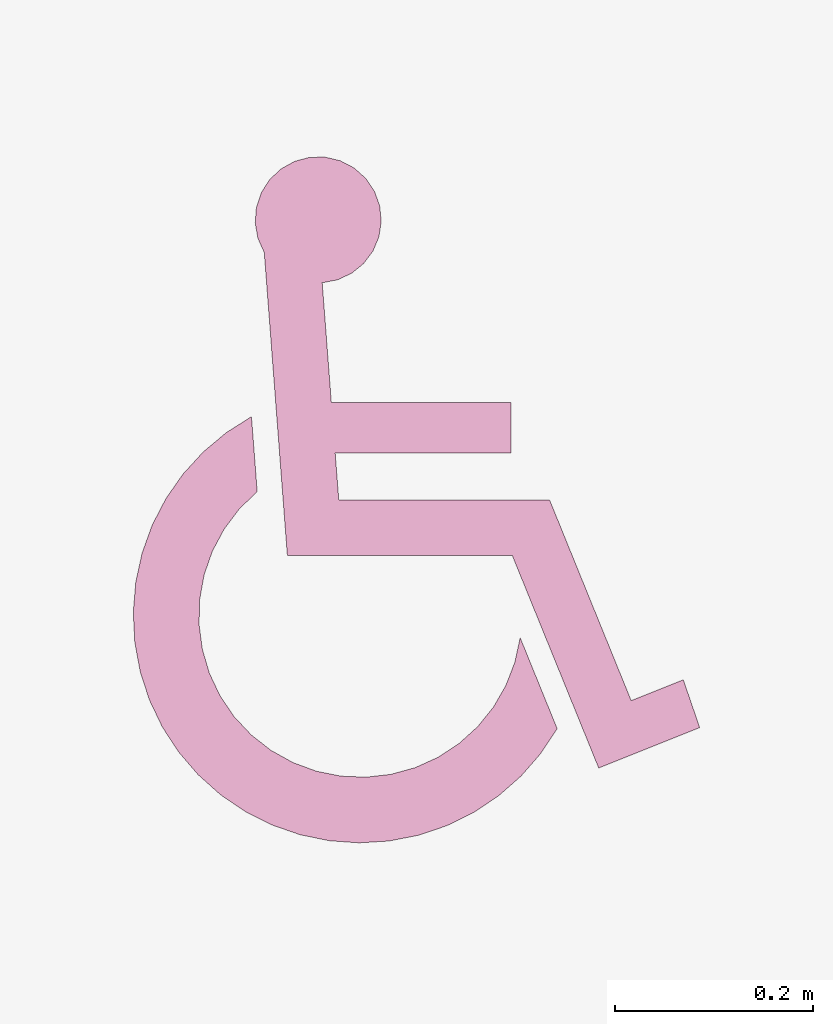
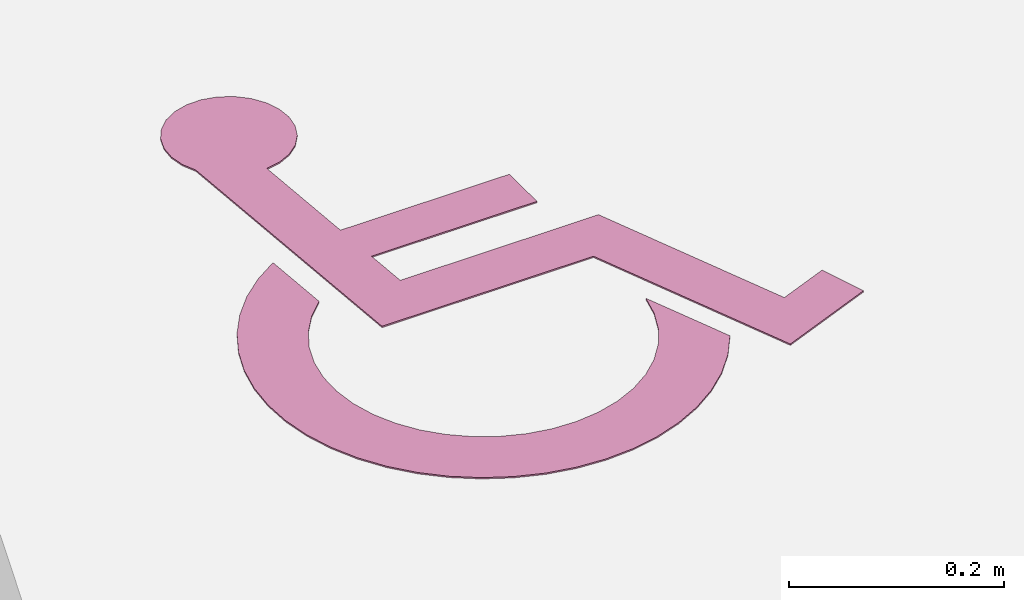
# One storey, part 97 of 100: 1 furnishing.
"""IFC2X3 building model written with IfcOpenShell, lengths in millimetres."""

from ifc_helpers import new_model, entity, si_unit, converted_unit, derived_unit, direction, frame, frame_2d, origin, place, context, subcontext, project, spatial, polyline, circle_curve, parameter, trimmed, segment, composite_curve, outline, extrude, source, transform, mapped, material, material_list, type_object, type_shapes, element, save


model = new_model("IFC2X3")

# Units and contexts
model_context = context("Model", 3, precision=0.01, world=origin(), true_north=direction((6.123031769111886e-17, 1.0)))
body_context = subcontext(model_context, "Body", "Model", "MODEL_VIEW")
ifc_project = project(units=[si_unit("LENGTHUNIT", "METRE", prefix="MILLI"), si_unit("AREAUNIT", "SQUARE_METRE"), si_unit("VOLUMEUNIT", "CUBIC_METRE"), converted_unit("PLANEANGLEUNIT", "DEGREE", entity("IfcRatioMeasure", 0.017453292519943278), si_unit("PLANEANGLEUNIT", "RADIAN"), dimensions=[0, 0, 0, 0, 0, 0, 0]), si_unit("MASSUNIT", "GRAM", prefix="KILO"), derived_unit("MASSDENSITYUNIT", [(si_unit("MASSUNIT", "GRAM", prefix="KILO"), 1), (si_unit("LENGTHUNIT", "METRE"), -3)]), derived_unit("MOMENTOFINERTIAUNIT", [(si_unit("LENGTHUNIT", "METRE"), 4)]), si_unit("TIMEUNIT", "SECOND"), si_unit("FREQUENCYUNIT", "HERTZ"), si_unit("THERMODYNAMICTEMPERATUREUNIT", "DEGREE_CELSIUS"), derived_unit("THERMALTRANSMITTANCEUNIT", [(si_unit("MASSUNIT", "GRAM", prefix="KILO"), 1), (si_unit("THERMODYNAMICTEMPERATUREUNIT", "KELVIN"), -1), (si_unit("TIMEUNIT", "SECOND"), -3)]), derived_unit("VOLUMETRICFLOWRATEUNIT", [(si_unit("LENGTHUNIT", "METRE"), 3), (si_unit("TIMEUNIT", "SECOND"), -1)]), derived_unit("MASSFLOWRATEUNIT", [(si_unit("MASSUNIT", "GRAM", prefix="KILO"), 1), (si_unit("TIMEUNIT", "SECOND"), -1)]), derived_unit("ROTATIONALFREQUENCYUNIT", [(si_unit("TIMEUNIT", "SECOND"), -1)]), si_unit("ELECTRICCURRENTUNIT", "AMPERE"), si_unit("ELECTRICVOLTAGEUNIT", "VOLT"), si_unit("POWERUNIT", "WATT"), si_unit("FORCEUNIT", "NEWTON", prefix="KILO"), si_unit("ILLUMINANCEUNIT", "LUX"), si_unit("LUMINOUSFLUXUNIT", "LUMEN"), si_unit("LUMINOUSINTENSITYUNIT", "CANDELA"), derived_unit("USERDEFINED", [(si_unit("MASSUNIT", "GRAM", prefix="KILO"), -1), (si_unit("LENGTHUNIT", "METRE"), -2), (si_unit("TIMEUNIT", "SECOND"), 3), (si_unit("LUMINOUSFLUXUNIT", "LUMEN"), 1)]), derived_unit("SOUNDPOWERUNIT", [(si_unit("MASSUNIT", "GRAM", prefix="KILO"), 1), (si_unit("LENGTHUNIT", "METRE"), 2), (si_unit("TIMEUNIT", "SECOND"), -3)]), derived_unit("SOUNDPRESSUREUNIT", [(si_unit("MASSUNIT", "GRAM", prefix="KILO"), 1), (si_unit("LENGTHUNIT", "METRE"), -1), (si_unit("TIMEUNIT", "SECOND"), -2)]), derived_unit("LINEARVELOCITYUNIT", [(si_unit("LENGTHUNIT", "METRE"), 1), (si_unit("TIMEUNIT", "SECOND"), -1)]), si_unit("PRESSUREUNIT", "PASCAL"), derived_unit("USERDEFINED", [(si_unit("LENGTHUNIT", "METRE"), -2), (si_unit("MASSUNIT", "GRAM", prefix="KILO"), 1), (si_unit("TIMEUNIT", "SECOND"), -2)]), derived_unit("LINEARFORCEUNIT", [(si_unit("MASSUNIT", "GRAM", prefix="KILO"), 1), (si_unit("LENGTHUNIT", "METRE"), 1), (si_unit("TIMEUNIT", "SECOND"), -2), (si_unit("LENGTHUNIT", "METRE"), -1)]), derived_unit("PLANARFORCEUNIT", [(si_unit("MASSUNIT", "GRAM", prefix="KILO"), 1), (si_unit("LENGTHUNIT", "METRE"), 1), (si_unit("TIMEUNIT", "SECOND"), -2), (si_unit("LENGTHUNIT", "METRE"), -2)])], contexts=[model_context])

# Site, building, storey, space
site_placement = place(None, frame((-14167.972527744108, -657.2125860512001, 0.0)))
site = spatial("IfcSite", under=ifc_project, at=site_placement, Name="Default", CompositionType="ELEMENT")
building_placement = place(site_placement, origin())
building = spatial("IfcBuilding", under=site, at=building_placement, Name="Sample Building", CompositionType="ELEMENT")
storey_placement = place(building_placement, origin())
storey = spatial("IfcBuildingStorey", under=building, at=storey_placement, Name="지상 1층", CompositionType="ELEMENT", Elevation=0.0)
space_placement = place(storey_placement, origin())
space = spatial("IfcSpace", under=storey, at=space_placement, Name="170", CompositionType="ELEMENT", InteriorOrExteriorSpace="INTERNAL")

# Furnishing
ifc_material = material(Name="KBIMS-노면용 페인트_진하늘색")
ifc_material_list_1 = material_list([ifc_material, ifc_material])
ifc_material_list_2 = material_list([ifc_material, ifc_material])
furniture_type = type_object("IfcFurnitureType", Name="SE251-장애인전용 표시:SE251-장애인전용 표시", material=ifc_material_list_2)
shared_shape = source(origin(), body_context, "Body", "SweptSolid", [
    extrude(outline(composite_curve([segment(trimmed(circle_curve(frame_2d((-36.68855283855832, -47.74251805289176), x_axis=(1.0, 0.0)), 229.68578343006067), [parameter(118.63343780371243)], [parameter(330.18087778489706)], True, "PARAMETER"), True, "CONTINUOUS"), segment(polyline([(162.58672770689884, -161.9568852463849), (125.13875807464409, -69.8626552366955)]), True, "CONTINUOUS"), segment(trimmed(circle_curve(frame_2d((-36.68855283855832, -47.74251805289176), x_axis=(1.0, 0.0)), 163.33211266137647), [parameter(129.67752554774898)], [parameter(352.21649007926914)], True, "PARAMETER"), False, "CONTINUOUS"), segment(polyline([(-140.97054841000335, 77.96605136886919), (-146.7549373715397, 153.85348911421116)]), True, "CONTINUOUS")], self_intersect=False)), frame((71.31807136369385, -37.57408412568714, 0.0)), (0.0, 0.0, 1.0), 1.5875),
    extrude(outline(composite_curve([segment(polyline([(-282.31222354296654, -186.97456283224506), (25.012127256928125, -186.974562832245)]), True, "CONTINUOUS"), segment(polyline([(25.012127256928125, -186.974562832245), (42.305091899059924, 39.89793596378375)]), True, "CONTINUOUS"), segment(polyline([(42.30509189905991, 39.89793596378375), (263.5159692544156, 110.7895168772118)]), True, "CONTINUOUS"), segment(polyline([(263.5159692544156, 110.7895168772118), (230.53394569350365, 215.81642815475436)]), True, "CONTINUOUS"), segment(polyline([(230.53394569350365, 215.81642815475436), (181.07321552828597, 202.95741624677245)]), True, "CONTINUOUS"), segment(polyline([(181.07321552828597, 202.95741624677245), (198.08692429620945, 148.77950087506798)]), True, "CONTINUOUS"), segment(polyline([(198.08692429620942, 148.77950087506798), (-10.806586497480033, 81.83527372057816)]), True, "CONTINUOUS"), segment(polyline([(-10.806586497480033, 81.83527372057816), (-27.016565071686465, -130.829149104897)]), True, "CONTINUOUS"), segment(polyline([(-27.01656507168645, -130.829149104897), (-74.51295100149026, -130.82914910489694)]), True, "CONTINUOUS"), segment(polyline([(-74.51295100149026, -130.82914910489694), (-60.984513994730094, 46.65518467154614)]), True, "CONTINUOUS"), segment(polyline([(-60.984513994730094, 46.65518467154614), (-111.87816757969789, 50.53446557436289)]), True, "CONTINUOUS"), segment(polyline([(-111.87816757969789, 50.53446557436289), (-125.70229607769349, -130.82914910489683)]), True, "CONTINUOUS"), segment(polyline([(-125.70229607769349, -130.82914910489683), (-247.3139701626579, -130.8291491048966)]), True, "CONTINUOUS"), segment(trimmed(circle_curve(frame_2d((-311.1107235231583, -130.04222235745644), x_axis=(0.07600280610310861, 0.9971076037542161)), 63.80160650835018), [parameter(273.6521413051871)], [parameter(211.19083029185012)], True, "PARAMETER"), True, "CONTINUOUS")], self_intersect=False)), frame((145.3871253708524, 15.097937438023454, 0.0), z_axis=(0.0, 0.0, 1.0), x_axis=(0.07600280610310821, -0.9971076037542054, 0.0)), (0.0, 0.0, 1.0), 1.5875),
])
type_shapes(furniture_type, [shared_shape])
furnishing_placement = place(space_placement, frame((33677.963692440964, 23597.21230348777, -510.0)))
element("IfcFurnishingElement", 1, at=furnishing_placement, inside=space, type_object=furniture_type, material=ifc_material_list_1, Name="SE251-장애인전용 표시:SE251-장애인전용 표시", ObjectType="SE251-장애인전용 표시:SE251-장애인전용 표시", context=body_context, shape_type="MappedRepresentation", body=[
    mapped(shared_shape, transform((0.0, 0.0, 0.0), scale=1.0)),
])

save(model, "model.ifc")
